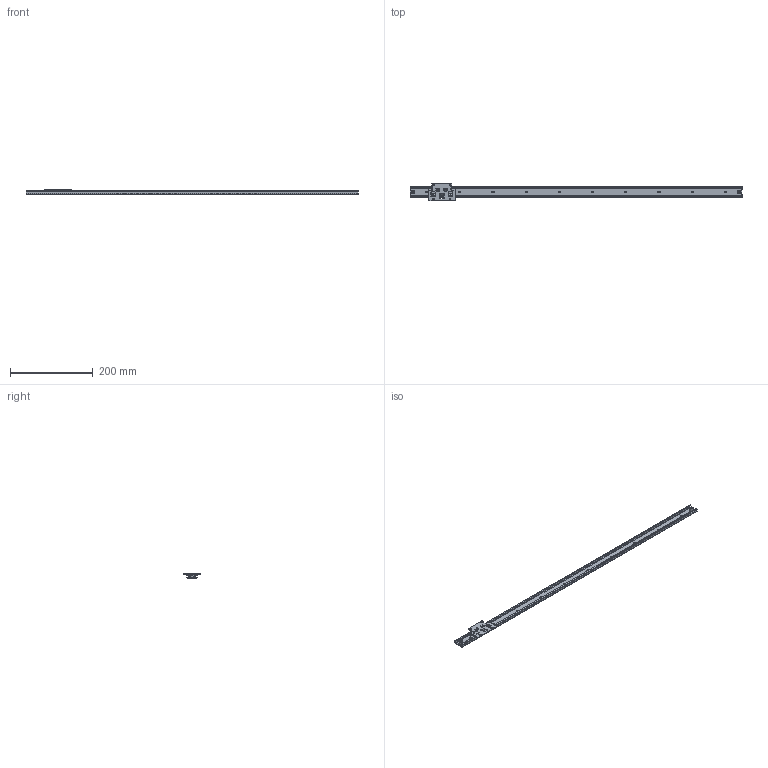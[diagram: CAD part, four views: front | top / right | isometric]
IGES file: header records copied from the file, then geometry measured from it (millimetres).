
Global section: file name:  ; native system: Kubotek KeyCreator; preprocessor: KCM Version 1.1.28; author: KeyCreator•p{ž; organization: Self; date: 20160805.054436; units: millimetre
Bounding box: 800 x 42 x 12 mm (x, y, z)
Surface area: 74267.8 mm2 (no closed solid volume)
Topology: 0 solids, 0 shells, 446 faces, 2090 edges, 1965 vertices
Faces by surface type: revolution 252, plane 194
